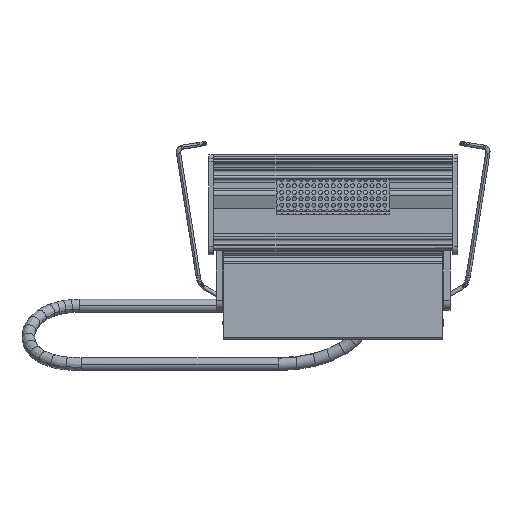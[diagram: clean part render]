
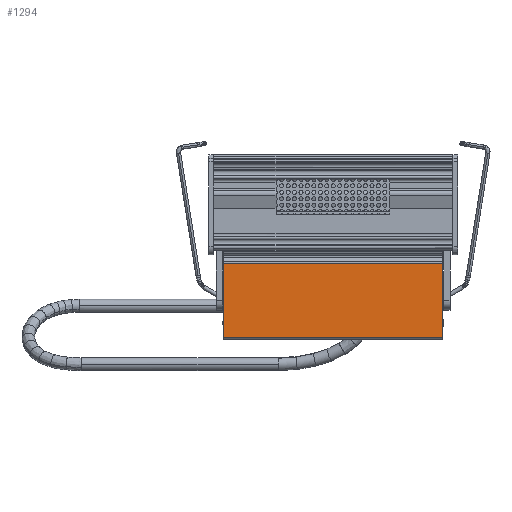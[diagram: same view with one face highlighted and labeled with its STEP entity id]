
A CAD part, front view. The second image highlights one B-rep face of the part: STEP entity #1294.
In plain terms, the highlighted planar face has unit normal (0, 1, 0).
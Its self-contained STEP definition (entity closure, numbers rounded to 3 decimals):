
#1294=ADVANCED_FACE('',(#4289),#53939,.T.);
#4289=FACE_OUTER_BOUND('',#7289,.T.);
#7289=EDGE_LOOP('',(#11865,#11866,#11867,#11868));
#11865=ORIENTED_EDGE('',*,*,#29772,.T.);
#11866=ORIENTED_EDGE('',*,*,#29759,.T.);
#11867=ORIENTED_EDGE('',*,*,#29771,.F.);
#11868=ORIENTED_EDGE('',*,*,#29732,.T.);
#29732=EDGE_CURVE('',#48010,#48013,#44546,.T.);
#29759=EDGE_CURVE('',#48027,#48026,#44567,.T.);
#29771=EDGE_CURVE('',#48010,#48026,#44577,.T.);
#29772=EDGE_CURVE('',#48013,#48027,#44578,.T.);
#44546=B_SPLINE_CURVE_WITH_KNOTS('',1,(#61643,#61644),.UNSPECIFIED.,.F.,
 .F.,(2,2),(-68.,0.),.UNSPECIFIED.);
#44567=B_SPLINE_CURVE_WITH_KNOTS('',1,(#61703,#61704),.UNSPECIFIED.,.F.,
 .F.,(2,2),(-68.,0.),.UNSPECIFIED.);
#44577=B_SPLINE_CURVE_WITH_KNOTS('',1,(#61729,#61730),.UNSPECIFIED.,.F.,
 .F.,(2,2),(-23.067,0.),.UNSPECIFIED.);
#44578=B_SPLINE_CURVE_WITH_KNOTS('',1,(#61731,#61732),.UNSPECIFIED.,.F.,
 .F.,(2,2),(-23.067,0.),.UNSPECIFIED.);
#48010=VERTEX_POINT('',#61200);
#48013=VERTEX_POINT('',#61203);
#48026=VERTEX_POINT('',#61216);
#48027=VERTEX_POINT('',#61217);
#53939=PLANE('',#56972);
#56972=AXIS2_PLACEMENT_3D('',#60527,#57478,$);
#57478=DIRECTION('',(0.,1.,0.));
#60527=CARTESIAN_POINT('',(-78.68,-17.25,-42.7));
#61200=CARTESIAN_POINT('',(-71.046,-17.25,-16.493));
#61203=CARTESIAN_POINT('',(-3.046,-17.25,-16.493));
#61216=CARTESIAN_POINT('',(-71.046,-17.25,-39.56));
#61217=CARTESIAN_POINT('',(-3.046,-17.25,-39.56));
#61643=CARTESIAN_POINT('',(-71.046,-17.25,-16.493));
#61644=CARTESIAN_POINT('',(-3.046,-17.25,-16.493));
#61703=CARTESIAN_POINT('',(-3.046,-17.25,-39.56));
#61704=CARTESIAN_POINT('',(-71.046,-17.25,-39.56));
#61729=CARTESIAN_POINT('',(-71.046,-17.25,-16.493));
#61730=CARTESIAN_POINT('',(-71.046,-17.25,-39.56));
#61731=CARTESIAN_POINT('',(-3.046,-17.25,-16.493));
#61732=CARTESIAN_POINT('',(-3.046,-17.25,-39.56));
